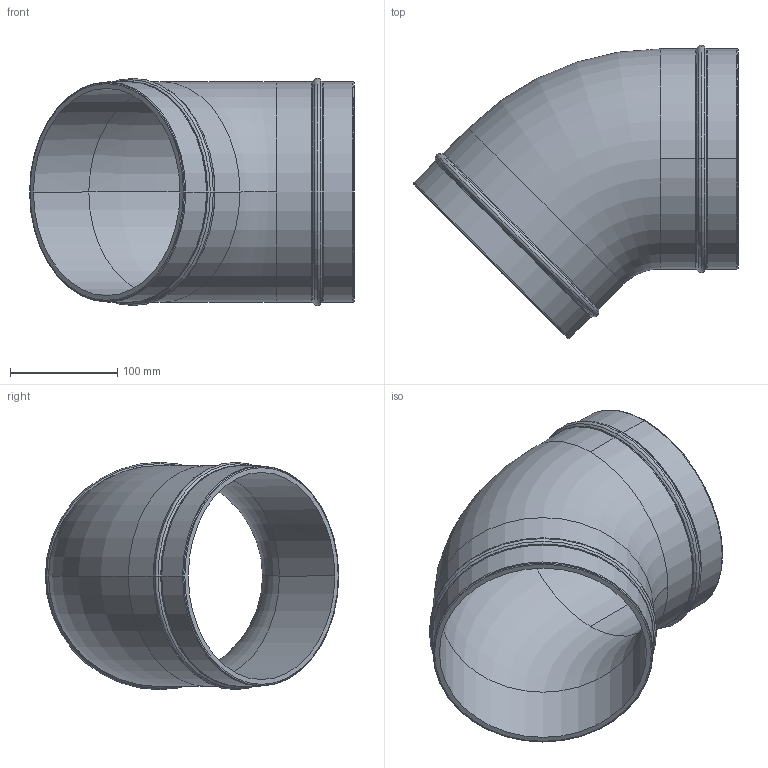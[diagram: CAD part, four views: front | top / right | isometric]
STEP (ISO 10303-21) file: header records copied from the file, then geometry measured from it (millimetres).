
FILE_DESCRIPTION(/* description */ (''),/* implementation_level */ '2;1');
FILE_NAME(/* name */ 'A004_stp.stp',/* time_stamp */ '2025-06-20T11:38:23+08:00',/* author */ (''),/* organization */ (''),/* preprocessor_version */ 'ST-DEVELOPER v14',/* originating_system */ 'SIEMENS PLM Software NX 8.0',/* authorisation */ '');
FILE_SCHEMA (('AP203_CONFIGURATION_CONTROLLED_3D_DESIGN_OF_MECHANICAL_PARTS_AND_ASSEMBLIES_MIM_LF { 1 0 10303 403 2 1 2}'));
Length unit declared in the file: millimetre
Products named in the file (1): Admi0BECFFFE4xte
Bounding box: 302.25 x 272.99 x 211.49 mm (x, y, z)
Volume: 1015201.7 mm3; surface area: 339130.4 mm2
Topology: 1 solids, 1 shells, 58 faces, 123 edges, 67 vertices
Faces by surface type: torus 36, cylinder 12, cone 8, plane 2
Entity records: 1666 total; most frequent: DIRECTION 344, CARTESIAN_POINT 249, ORIENTED_EDGE 246, AXIS2_PLACEMENT_3D 162, EDGE_CURVE 123, CIRCLE 103, VERTEX_POINT 67, EDGE_LOOP 60
